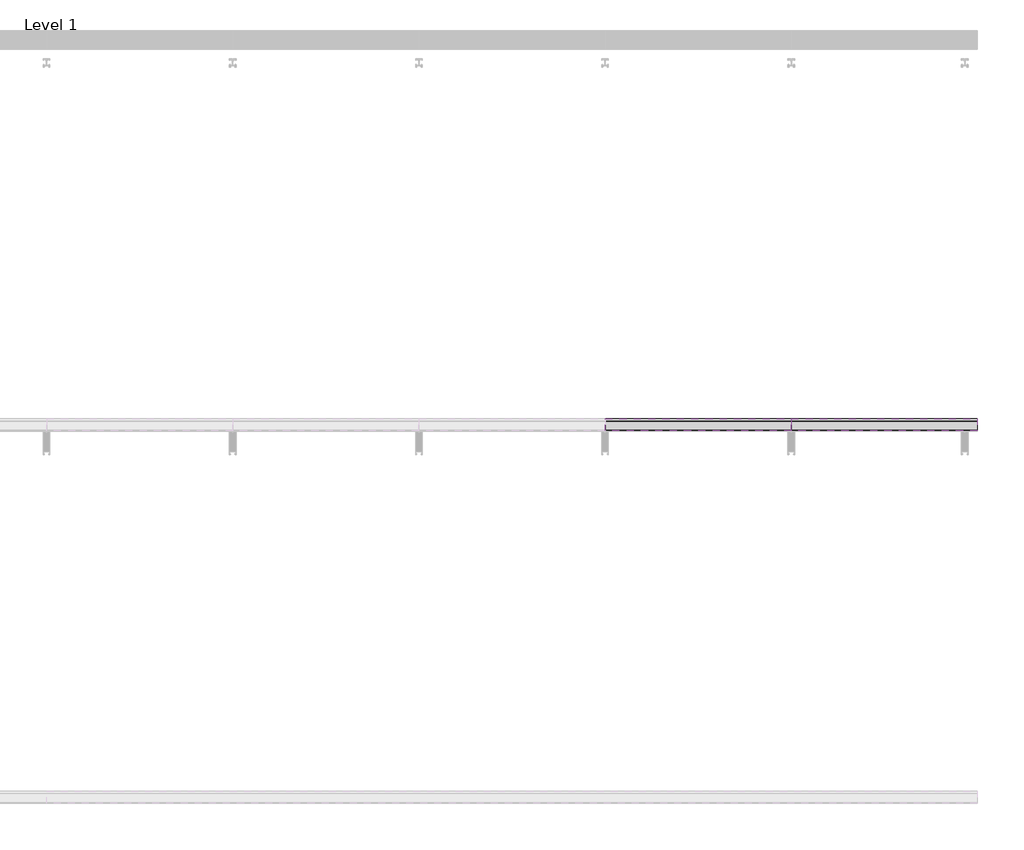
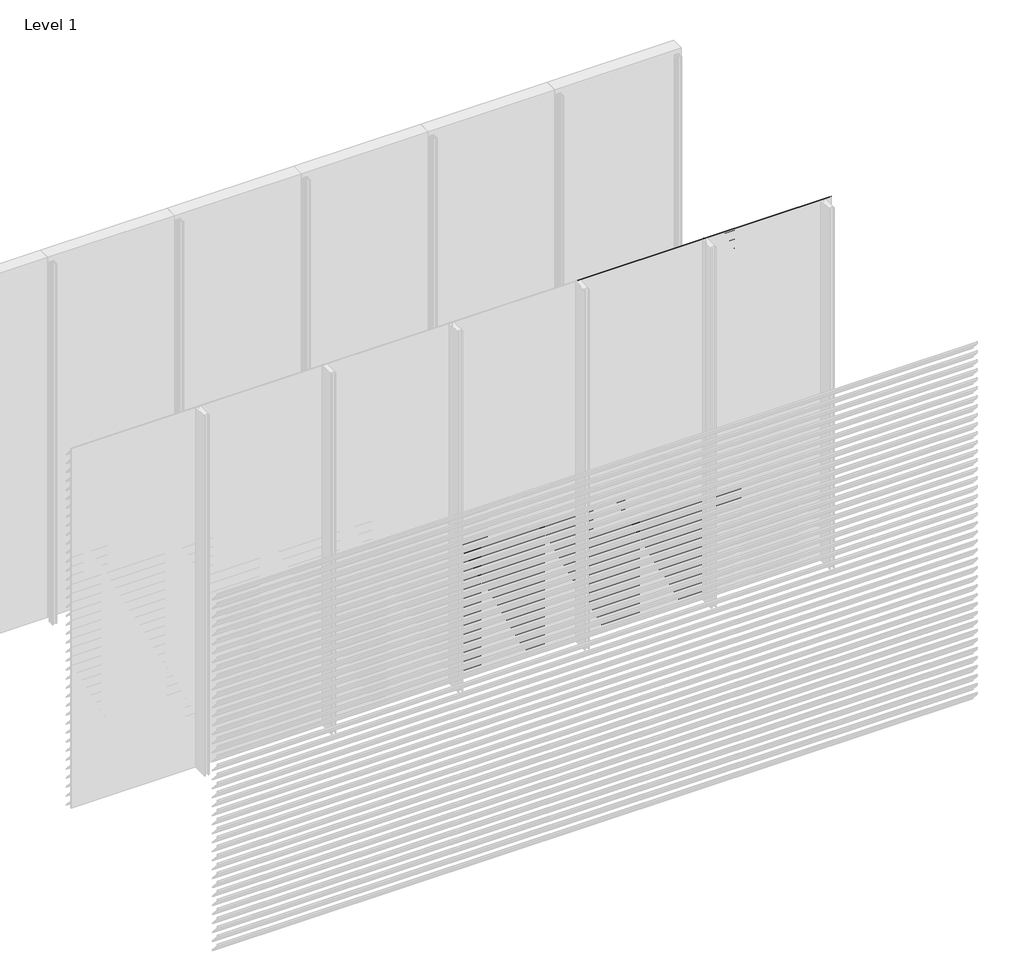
# One storey, part 9 of 35: 86 proxies.
"""IFC4 building model written with IfcOpenShell, lengths in millimetres."""

from ifc_helpers import new_model, si_unit, frame, origin, place, context, project, spatial, polyline, outline, extrude, element, save

model = new_model("IFC4")

# Units and contexts
model_context = context("Model", 3, world=origin())
ifc_project = project(units=[si_unit("LENGTHUNIT", "METRE", prefix="MILLI")], contexts=[model_context])

# Site, building, storey
site = spatial("IfcSite", under=ifc_project)
building = spatial("IfcBuilding", under=site)
storey = spatial("IfcBuildingStorey", under=building, Name="Level 1", Elevation=0.0)

# Proxies
placement = place(None, origin())
element("IfcBuildingElementProxy", 1, Name="Wall Sweeps", at=placement, inside=storey, context=model_context, shape_type="SweptSolid", body=[
    extrude(outline(polyline([(-47996.5, 1125.0), (-47996.5, 1110.5463701), (-47934.5, 1038.9330051), (-47934.5, 1035.4), (-47936.0, 1035.4), (-47936.0, 1038.3738975), (-47998.0, 1109.9872626), (-47998.0, 1125.0), (-47996.5, 1125.0)])), frame((3000.0, 0.0, 0.0), z_axis=(1.0, 0.0, 0.0), x_axis=(0.0, 1.0, 0.0)), (0.0, 0.0, 1.0), 1000.0),
])
element("IfcBuildingElementProxy", 2, Name="Wall Sweeps", at=placement, inside=storey, context=model_context, shape_type="SweptSolid", body=[
    extrude(outline(polyline([(-47996.5, 1050.0), (-47996.5, 1035.5463701), (-47934.5, 963.9330051), (-47934.5, 960.4), (-47936.0, 960.4), (-47936.0, 963.3738975), (-47998.0, 1034.9872626), (-47998.0, 1050.0), (-47996.5, 1050.0)])), frame((3000.0, 0.0, 0.0), z_axis=(1.0, 0.0, 0.0), x_axis=(0.0, 1.0, 0.0)), (0.0, 0.0, 1.0), 1000.0),
])
element("IfcBuildingElementProxy", 3, Name="Wall Sweeps", at=placement, inside=storey, context=model_context, shape_type="SweptSolid", body=[
    extrude(outline(polyline([(-47996.5, 975.0), (-47996.5, 960.5463701), (-47934.5, 888.9330051), (-47934.5, 885.4), (-47936.0, 885.4), (-47936.0, 888.3738975), (-47998.0, 959.9872626), (-47998.0, 975.0), (-47996.5, 975.0)])), frame((3000.0, 0.0, 0.0), z_axis=(1.0, 0.0, 0.0), x_axis=(0.0, 1.0, 0.0)), (0.0, 0.0, 1.0), 1000.0),
])
element("IfcBuildingElementProxy", 4, Name="Wall Sweeps", at=placement, inside=storey, context=model_context, shape_type="SweptSolid", body=[
    extrude(outline(polyline([(-47996.5, 900.0), (-47996.5, 885.5463701), (-47934.5, 813.9330051), (-47934.5, 810.4), (-47936.0, 810.4), (-47936.0, 813.3738975), (-47998.0, 884.9872626), (-47998.0, 900.0), (-47996.5, 900.0)])), frame((3000.0, 0.0, 0.0), z_axis=(1.0, 0.0, 0.0), x_axis=(0.0, 1.0, 0.0)), (0.0, 0.0, 1.0), 1000.0),
])
element("IfcBuildingElementProxy", 5, Name="Wall Sweeps", at=placement, inside=storey, context=model_context, shape_type="SweptSolid", body=[
    extrude(outline(polyline([(-47996.5, 825.0), (-47996.5, 810.5463701), (-47934.5, 738.9330051), (-47934.5, 735.4), (-47936.0, 735.4), (-47936.0, 738.3738975), (-47998.0, 809.9872626), (-47998.0, 825.0), (-47996.5, 825.0)])), frame((3000.0, 0.0, 0.0), z_axis=(1.0, 0.0, 0.0), x_axis=(0.0, 1.0, 0.0)), (0.0, 0.0, 1.0), 1000.0),
])
element("IfcBuildingElementProxy", 6, Name="Wall Sweeps", at=placement, inside=storey, context=model_context, shape_type="SweptSolid", body=[
    extrude(outline(polyline([(-47996.5, 750.0), (-47996.5, 735.5463701), (-47934.5, 663.9330051), (-47934.5, 660.4), (-47936.0, 660.4), (-47936.0, 663.3738975), (-47998.0, 734.9872626), (-47998.0, 750.0), (-47996.5, 750.0)])), frame((3000.0, 0.0, 0.0), z_axis=(1.0, 0.0, 0.0), x_axis=(0.0, 1.0, 0.0)), (0.0, 0.0, 1.0), 1000.0),
])
element("IfcBuildingElementProxy", 7, Name="Wall Sweeps", at=placement, inside=storey, context=model_context, shape_type="SweptSolid", body=[
    extrude(outline(polyline([(-47996.5, 675.0), (-47996.5, 660.5463701), (-47934.5, 588.9330051), (-47934.5, 585.4), (-47936.0, 585.4), (-47936.0, 588.3738975), (-47998.0, 659.9872626), (-47998.0, 675.0), (-47996.5, 675.0)])), frame((3000.0, 0.0, 0.0), z_axis=(1.0, 0.0, 0.0), x_axis=(0.0, 1.0, 0.0)), (0.0, 0.0, 1.0), 1000.0),
])
element("IfcBuildingElementProxy", 8, Name="Wall Sweeps", at=placement, inside=storey, context=model_context, shape_type="SweptSolid", body=[
    extrude(outline(polyline([(-47996.5, 600.0), (-47996.5, 585.5463701), (-47934.5, 513.9330051), (-47934.5, 510.4), (-47936.0, 510.4), (-47936.0, 513.3738975), (-47998.0, 584.9872626), (-47998.0, 600.0), (-47996.5, 600.0)])), frame((3000.0, 0.0, 0.0), z_axis=(1.0, 0.0, 0.0), x_axis=(0.0, 1.0, 0.0)), (0.0, 0.0, 1.0), 1000.0),
])
element("IfcBuildingElementProxy", 9, Name="Wall Sweeps", at=placement, inside=storey, context=model_context, shape_type="SweptSolid", body=[
    extrude(outline(polyline([(-47996.5, 525.0), (-47996.5, 510.5463701), (-47934.5, 438.9330051), (-47934.5, 435.4), (-47936.0, 435.4), (-47936.0, 438.3738975), (-47998.0, 509.9872626), (-47998.0, 525.0), (-47996.5, 525.0)])), frame((3000.0, 0.0, 0.0), z_axis=(1.0, 0.0, 0.0), x_axis=(0.0, 1.0, 0.0)), (0.0, 0.0, 1.0), 1000.0),
])
element("IfcBuildingElementProxy", 10, Name="Wall Sweeps", at=placement, inside=storey, context=model_context, shape_type="SweptSolid", body=[
    extrude(outline(polyline([(-47996.5, 450.0), (-47996.5, 435.5463701), (-47934.5, 363.9330051), (-47934.5, 360.4), (-47936.0, 360.4), (-47936.0, 363.3738975), (-47998.0, 434.9872626), (-47998.0, 450.0), (-47996.5, 450.0)])), frame((3000.0, 0.0, 0.0), z_axis=(1.0, 0.0, 0.0), x_axis=(0.0, 1.0, 0.0)), (0.0, 0.0, 1.0), 1000.0),
])
element("IfcBuildingElementProxy", 11, Name="Wall Sweeps", at=placement, inside=storey, context=model_context, shape_type="SweptSolid", body=[
    extrude(outline(polyline([(-47996.5, 375.0), (-47996.5, 360.5463701), (-47934.5, 288.9330051), (-47934.5, 285.4), (-47936.0, 285.4), (-47936.0, 288.3738975), (-47998.0, 359.9872626), (-47998.0, 375.0), (-47996.5, 375.0)])), frame((3000.0, 0.0, 0.0), z_axis=(1.0, 0.0, 0.0), x_axis=(0.0, 1.0, 0.0)), (0.0, 0.0, 1.0), 1000.0),
])
element("IfcBuildingElementProxy", 12, Name="Wall Sweeps", at=placement, inside=storey, context=model_context, shape_type="SweptSolid", body=[
    extrude(outline(polyline([(-47996.5, 300.0), (-47996.5, 285.5463701), (-47934.5, 213.9330051), (-47934.5, 210.4), (-47936.0, 210.4), (-47936.0, 213.3738975), (-47998.0, 284.9872626), (-47998.0, 300.0), (-47996.5, 300.0)])), frame((3000.0, 0.0, 0.0), z_axis=(1.0, 0.0, 0.0), x_axis=(0.0, 1.0, 0.0)), (0.0, 0.0, 1.0), 1000.0),
])
element("IfcBuildingElementProxy", 13, Name="Wall Sweeps", at=placement, inside=storey, context=model_context, shape_type="SweptSolid", body=[
    extrude(outline(polyline([(-47996.5, 225.0), (-47996.5, 210.5463701), (-47934.5, 138.9330051), (-47934.5, 135.4), (-47936.0, 135.4), (-47936.0, 138.3738975), (-47998.0, 209.9872626), (-47998.0, 225.0), (-47996.5, 225.0)])), frame((3000.0, 0.0, 0.0), z_axis=(1.0, 0.0, 0.0), x_axis=(0.0, 1.0, 0.0)), (0.0, 0.0, 1.0), 1000.0),
])
element("IfcBuildingElementProxy", 14, Name="Wall Sweeps", at=placement, inside=storey, context=model_context, shape_type="SweptSolid", body=[
    extrude(outline(polyline([(-47996.5, 150.0), (-47996.5, 135.5463701), (-47934.5, 63.9330051), (-47934.5, 60.4), (-47936.0, 60.4), (-47936.0, 63.3738975), (-47998.0, 134.9872626), (-47998.0, 150.0), (-47996.5, 150.0)])), frame((3000.0, 0.0, 0.0), z_axis=(1.0, 0.0, 0.0), x_axis=(0.0, 1.0, 0.0)), (0.0, 0.0, 1.0), 1000.0),
])
element("IfcBuildingElementProxy", 15, Name="Wall Sweeps", at=placement, inside=storey, context=model_context, shape_type="SweptSolid", body=[
    extrude(outline(polyline([(-47996.5, 75.0), (-47996.5, 60.5463701), (-47934.5, -11.0669949), (-47934.5, -14.6), (-47936.0, -14.6), (-47936.0, -11.6261025), (-47998.0, 59.9872626), (-47998.0, 75.0), (-47996.5, 75.0)])), frame((3000.0, 0.0, 0.0), z_axis=(1.0, 0.0, 0.0), x_axis=(0.0, 1.0, 0.0)), (0.0, 0.0, 1.0), 1000.0),
])
element("IfcBuildingElementProxy", 16, Name="Wall Sweeps", at=placement, inside=storey, context=model_context, shape_type="SweptSolid", body=[
    extrude(outline(polyline([(-47996.5, 3000.0), (-47996.5, 2985.5463701), (-47934.5, 2913.9330051), (-47934.5, 2910.4), (-47936.0, 2910.4), (-47936.0, 2913.3738975), (-47998.0, 2984.9872626), (-47998.0, 3000.0), (-47996.5, 3000.0)])), frame((4000.0, 0.0, 0.0), z_axis=(1.0, 0.0, 0.0), x_axis=(0.0, 1.0, 0.0)), (0.0, 0.0, 1.0), 1000.0),
])
element("IfcBuildingElementProxy", 17, Name="Wall Sweeps", at=placement, inside=storey, context=model_context, shape_type="SweptSolid", body=[
    extrude(outline(polyline([(-47996.5, 2925.0), (-47996.5, 2910.5463701), (-47934.5, 2838.9330051), (-47934.5, 2835.4), (-47936.0, 2835.4), (-47936.0, 2838.3738975), (-47998.0, 2909.9872626), (-47998.0, 2925.0), (-47996.5, 2925.0)])), frame((4000.0, 0.0, 0.0), z_axis=(1.0, 0.0, 0.0), x_axis=(0.0, 1.0, 0.0)), (0.0, 0.0, 1.0), 1000.0),
])
element("IfcBuildingElementProxy", 18, Name="Wall Sweeps", at=placement, inside=storey, context=model_context, shape_type="SweptSolid", body=[
    extrude(outline(polyline([(-47996.5, 2850.0), (-47996.5, 2835.5463701), (-47934.5, 2763.9330051), (-47934.5, 2760.4), (-47936.0, 2760.4), (-47936.0, 2763.3738975), (-47998.0, 2834.9872626), (-47998.0, 2850.0), (-47996.5, 2850.0)])), frame((4000.0, 0.0, 0.0), z_axis=(1.0, 0.0, 0.0), x_axis=(0.0, 1.0, 0.0)), (0.0, 0.0, 1.0), 1000.0),
])
element("IfcBuildingElementProxy", 19, Name="Wall Sweeps", at=placement, inside=storey, context=model_context, shape_type="SweptSolid", body=[
    extrude(outline(polyline([(-47996.5, 2775.0), (-47996.5, 2760.5463701), (-47934.5, 2688.9330051), (-47934.5, 2685.4), (-47936.0, 2685.4), (-47936.0, 2688.3738975), (-47998.0, 2759.9872626), (-47998.0, 2775.0), (-47996.5, 2775.0)])), frame((4000.0, 0.0, 0.0), z_axis=(1.0, 0.0, 0.0), x_axis=(0.0, 1.0, 0.0)), (0.0, 0.0, 1.0), 1000.0),
])
element("IfcBuildingElementProxy", 20, Name="Wall Sweeps", at=placement, inside=storey, context=model_context, shape_type="SweptSolid", body=[
    extrude(outline(polyline([(-47996.5, 2700.0), (-47996.5, 2685.5463701), (-47934.5, 2613.9330051), (-47934.5, 2610.4), (-47936.0, 2610.4), (-47936.0, 2613.3738975), (-47998.0, 2684.9872626), (-47998.0, 2700.0), (-47996.5, 2700.0)])), frame((4000.0, 0.0, 0.0), z_axis=(1.0, 0.0, 0.0), x_axis=(0.0, 1.0, 0.0)), (0.0, 0.0, 1.0), 1000.0),
])
element("IfcBuildingElementProxy", 21, Name="Wall Sweeps", at=placement, inside=storey, context=model_context, shape_type="SweptSolid", body=[
    extrude(outline(polyline([(-47996.5, 2625.0), (-47996.5, 2610.5463701), (-47934.5, 2538.9330051), (-47934.5, 2535.4), (-47936.0, 2535.4), (-47936.0, 2538.3738975), (-47998.0, 2609.9872626), (-47998.0, 2625.0), (-47996.5, 2625.0)])), frame((4000.0, 0.0, 0.0), z_axis=(1.0, 0.0, 0.0), x_axis=(0.0, 1.0, 0.0)), (0.0, 0.0, 1.0), 1000.0),
])
element("IfcBuildingElementProxy", 22, Name="Wall Sweeps", at=placement, inside=storey, context=model_context, shape_type="SweptSolid", body=[
    extrude(outline(polyline([(-47996.5, 2550.0), (-47996.5, 2535.5463701), (-47934.5, 2463.9330051), (-47934.5, 2460.4), (-47936.0, 2460.4), (-47936.0, 2463.3738975), (-47998.0, 2534.9872626), (-47998.0, 2550.0), (-47996.5, 2550.0)])), frame((4000.0, 0.0, 0.0), z_axis=(1.0, 0.0, 0.0), x_axis=(0.0, 1.0, 0.0)), (0.0, 0.0, 1.0), 1000.0),
])
element("IfcBuildingElementProxy", 23, Name="Wall Sweeps", at=placement, inside=storey, context=model_context, shape_type="SweptSolid", body=[
    extrude(outline(polyline([(-47996.5, 2475.0), (-47996.5, 2460.5463701), (-47934.5, 2388.9330051), (-47934.5, 2385.4), (-47936.0, 2385.4), (-47936.0, 2388.3738975), (-47998.0, 2459.9872626), (-47998.0, 2475.0), (-47996.5, 2475.0)])), frame((4000.0, 0.0, 0.0), z_axis=(1.0, 0.0, 0.0), x_axis=(0.0, 1.0, 0.0)), (0.0, 0.0, 1.0), 1000.0),
])
element("IfcBuildingElementProxy", 24, Name="Wall Sweeps", at=placement, inside=storey, context=model_context, shape_type="SweptSolid", body=[
    extrude(outline(polyline([(-47996.5, 2400.0), (-47996.5, 2385.5463701), (-47934.5, 2313.9330051), (-47934.5, 2310.4), (-47936.0, 2310.4), (-47936.0, 2313.3738975), (-47998.0, 2384.9872626), (-47998.0, 2400.0), (-47996.5, 2400.0)])), frame((4000.0, 0.0, 0.0), z_axis=(1.0, 0.0, 0.0), x_axis=(0.0, 1.0, 0.0)), (0.0, 0.0, 1.0), 1000.0),
])
element("IfcBuildingElementProxy", 25, Name="Wall Sweeps", at=placement, inside=storey, context=model_context, shape_type="SweptSolid", body=[
    extrude(outline(polyline([(-47996.5, 2325.0), (-47996.5, 2310.5463701), (-47934.5, 2238.9330051), (-47934.5, 2235.4), (-47936.0, 2235.4), (-47936.0, 2238.3738975), (-47998.0, 2309.9872626), (-47998.0, 2325.0), (-47996.5, 2325.0)])), frame((4000.0, 0.0, 0.0), z_axis=(1.0, 0.0, 0.0), x_axis=(0.0, 1.0, 0.0)), (0.0, 0.0, 1.0), 1000.0),
])
element("IfcBuildingElementProxy", 26, Name="Wall Sweeps", at=placement, inside=storey, context=model_context, shape_type="SweptSolid", body=[
    extrude(outline(polyline([(-47996.5, 2250.0), (-47996.5, 2235.5463701), (-47934.5, 2163.9330051), (-47934.5, 2160.4), (-47936.0, 2160.4), (-47936.0, 2163.3738975), (-47998.0, 2234.9872626), (-47998.0, 2250.0), (-47996.5, 2250.0)])), frame((4000.0, 0.0, 0.0), z_axis=(1.0, 0.0, 0.0), x_axis=(0.0, 1.0, 0.0)), (0.0, 0.0, 1.0), 1000.0),
])
element("IfcBuildingElementProxy", 27, Name="Wall Sweeps", at=placement, inside=storey, context=model_context, shape_type="SweptSolid", body=[
    extrude(outline(polyline([(-47996.5, 2175.0), (-47996.5, 2160.5463701), (-47934.5, 2088.9330051), (-47934.5, 2085.4), (-47936.0, 2085.4), (-47936.0, 2088.3738975), (-47998.0, 2159.9872626), (-47998.0, 2175.0), (-47996.5, 2175.0)])), frame((4000.0, 0.0, 0.0), z_axis=(1.0, 0.0, 0.0), x_axis=(0.0, 1.0, 0.0)), (0.0, 0.0, 1.0), 1000.0),
])
element("IfcBuildingElementProxy", 28, Name="Wall Sweeps", at=placement, inside=storey, context=model_context, shape_type="SweptSolid", body=[
    extrude(outline(polyline([(-47996.5, 2100.0), (-47996.5, 2085.5463701), (-47934.5, 2013.9330051), (-47934.5, 2010.4), (-47936.0, 2010.4), (-47936.0, 2013.3738975), (-47998.0, 2084.9872626), (-47998.0, 2100.0), (-47996.5, 2100.0)])), frame((4000.0, 0.0, 0.0), z_axis=(1.0, 0.0, 0.0), x_axis=(0.0, 1.0, 0.0)), (0.0, 0.0, 1.0), 1000.0),
])
element("IfcBuildingElementProxy", 29, Name="Wall Sweeps", at=placement, inside=storey, context=model_context, shape_type="SweptSolid", body=[
    extrude(outline(polyline([(-47996.5, 2025.0), (-47996.5, 2010.5463701), (-47934.5, 1938.9330051), (-47934.5, 1935.4), (-47936.0, 1935.4), (-47936.0, 1938.3738975), (-47998.0, 2009.9872626), (-47998.0, 2025.0), (-47996.5, 2025.0)])), frame((4000.0, 0.0, 0.0), z_axis=(1.0, 0.0, 0.0), x_axis=(0.0, 1.0, 0.0)), (0.0, 0.0, 1.0), 1000.0),
])
element("IfcBuildingElementProxy", 30, Name="Wall Sweeps", at=placement, inside=storey, context=model_context, shape_type="SweptSolid", body=[
    extrude(outline(polyline([(-47996.5, 1950.0), (-47996.5, 1935.5463701), (-47934.5, 1863.9330051), (-47934.5, 1860.4), (-47936.0, 1860.4), (-47936.0, 1863.3738975), (-47998.0, 1934.9872626), (-47998.0, 1950.0), (-47996.5, 1950.0)])), frame((4000.0, 0.0, 0.0), z_axis=(1.0, 0.0, 0.0), x_axis=(0.0, 1.0, 0.0)), (0.0, 0.0, 1.0), 1000.0),
])
element("IfcBuildingElementProxy", 31, Name="Wall Sweeps", at=placement, inside=storey, context=model_context, shape_type="SweptSolid", body=[
    extrude(outline(polyline([(-47996.5, 1875.0), (-47996.5, 1860.5463701), (-47934.5, 1788.9330051), (-47934.5, 1785.4), (-47936.0, 1785.4), (-47936.0, 1788.3738975), (-47998.0, 1859.9872626), (-47998.0, 1875.0), (-47996.5, 1875.0)])), frame((4000.0, 0.0, 0.0), z_axis=(1.0, 0.0, 0.0), x_axis=(0.0, 1.0, 0.0)), (0.0, 0.0, 1.0), 1000.0),
])
element("IfcBuildingElementProxy", 32, Name="Wall Sweeps", at=placement, inside=storey, context=model_context, shape_type="SweptSolid", body=[
    extrude(outline(polyline([(-47996.5, 1800.0), (-47996.5, 1785.5463701), (-47934.5, 1713.9330051), (-47934.5, 1710.4), (-47936.0, 1710.4), (-47936.0, 1713.3738975), (-47998.0, 1784.9872626), (-47998.0, 1800.0), (-47996.5, 1800.0)])), frame((4000.0, 0.0, 0.0), z_axis=(1.0, 0.0, 0.0), x_axis=(0.0, 1.0, 0.0)), (0.0, 0.0, 1.0), 1000.0),
])
element("IfcBuildingElementProxy", 33, Name="Wall Sweeps", at=placement, inside=storey, context=model_context, shape_type="SweptSolid", body=[
    extrude(outline(polyline([(-47996.5, 1725.0), (-47996.5, 1710.5463701), (-47934.5, 1638.9330051), (-47934.5, 1635.4), (-47936.0, 1635.4), (-47936.0, 1638.3738975), (-47998.0, 1709.9872626), (-47998.0, 1725.0), (-47996.5, 1725.0)])), frame((4000.0, 0.0, 0.0), z_axis=(1.0, 0.0, 0.0), x_axis=(0.0, 1.0, 0.0)), (0.0, 0.0, 1.0), 1000.0),
])
element("IfcBuildingElementProxy", 34, Name="Wall Sweeps", at=placement, inside=storey, context=model_context, shape_type="SweptSolid", body=[
    extrude(outline(polyline([(-47996.5, 1650.0), (-47996.5, 1635.5463701), (-47934.5, 1563.9330051), (-47934.5, 1560.4), (-47936.0, 1560.4), (-47936.0, 1563.3738975), (-47998.0, 1634.9872626), (-47998.0, 1650.0), (-47996.5, 1650.0)])), frame((4000.0, 0.0, 0.0), z_axis=(1.0, 0.0, 0.0), x_axis=(0.0, 1.0, 0.0)), (0.0, 0.0, 1.0), 1000.0),
])
element("IfcBuildingElementProxy", 35, Name="Wall Sweeps", at=placement, inside=storey, context=model_context, shape_type="SweptSolid", body=[
    extrude(outline(polyline([(-47996.5, 1575.0), (-47996.5, 1560.5463701), (-47934.5, 1488.9330051), (-47934.5, 1485.4), (-47936.0, 1485.4), (-47936.0, 1488.3738975), (-47998.0, 1559.9872626), (-47998.0, 1575.0), (-47996.5, 1575.0)])), frame((4000.0, 0.0, 0.0), z_axis=(1.0, 0.0, 0.0), x_axis=(0.0, 1.0, 0.0)), (0.0, 0.0, 1.0), 1000.0),
])
element("IfcBuildingElementProxy", 36, Name="Wall Sweeps", at=placement, inside=storey, context=model_context, shape_type="SweptSolid", body=[
    extrude(outline(polyline([(-47996.5, 1500.0), (-47996.5, 1485.5463701), (-47934.5, 1413.9330051), (-47934.5, 1410.4), (-47936.0, 1410.4), (-47936.0, 1413.3738975), (-47998.0, 1484.9872626), (-47998.0, 1500.0), (-47996.5, 1500.0)])), frame((4000.0, 0.0, 0.0), z_axis=(1.0, 0.0, 0.0), x_axis=(0.0, 1.0, 0.0)), (0.0, 0.0, 1.0), 1000.0),
])
element("IfcBuildingElementProxy", 37, Name="Wall Sweeps", at=placement, inside=storey, context=model_context, shape_type="SweptSolid", body=[
    extrude(outline(polyline([(-47996.5, 1425.0), (-47996.5, 1410.5463701), (-47934.5, 1338.9330051), (-47934.5, 1335.4), (-47936.0, 1335.4), (-47936.0, 1338.3738975), (-47998.0, 1409.9872626), (-47998.0, 1425.0), (-47996.5, 1425.0)])), frame((4000.0, 0.0, 0.0), z_axis=(1.0, 0.0, 0.0), x_axis=(0.0, 1.0, 0.0)), (0.0, 0.0, 1.0), 1000.0),
])
element("IfcBuildingElementProxy", 38, Name="Wall Sweeps", at=placement, inside=storey, context=model_context, shape_type="SweptSolid", body=[
    extrude(outline(polyline([(-47996.5, 1350.0), (-47996.5, 1335.5463701), (-47934.5, 1263.9330051), (-47934.5, 1260.4), (-47936.0, 1260.4), (-47936.0, 1263.3738975), (-47998.0, 1334.9872626), (-47998.0, 1350.0), (-47996.5, 1350.0)])), frame((4000.0, 0.0, 0.0), z_axis=(1.0, 0.0, 0.0), x_axis=(0.0, 1.0, 0.0)), (0.0, 0.0, 1.0), 1000.0),
])
element("IfcBuildingElementProxy", 39, Name="Wall Sweeps", at=placement, inside=storey, context=model_context, shape_type="SweptSolid", body=[
    extrude(outline(polyline([(-47996.5, 1275.0), (-47996.5, 1260.5463701), (-47934.5, 1188.9330051), (-47934.5, 1185.4), (-47936.0, 1185.4), (-47936.0, 1188.3738975), (-47998.0, 1259.9872626), (-47998.0, 1275.0), (-47996.5, 1275.0)])), frame((4000.0, 0.0, 0.0), z_axis=(1.0, 0.0, 0.0), x_axis=(0.0, 1.0, 0.0)), (0.0, 0.0, 1.0), 1000.0),
])
element("IfcBuildingElementProxy", 40, Name="Wall Sweeps", at=placement, inside=storey, context=model_context, shape_type="SweptSolid", body=[
    extrude(outline(polyline([(-47996.5, 1200.0), (-47996.5, 1185.5463701), (-47934.5, 1113.9330051), (-47934.5, 1110.4), (-47936.0, 1110.4), (-47936.0, 1113.3738975), (-47998.0, 1184.9872626), (-47998.0, 1200.0), (-47996.5, 1200.0)])), frame((4000.0, 0.0, 0.0), z_axis=(1.0, 0.0, 0.0), x_axis=(0.0, 1.0, 0.0)), (0.0, 0.0, 1.0), 1000.0),
])
element("IfcBuildingElementProxy", 41, Name="Wall Sweeps", at=placement, inside=storey, context=model_context, shape_type="SweptSolid", body=[
    extrude(outline(polyline([(-47996.5, 1125.0), (-47996.5, 1110.5463701), (-47934.5, 1038.9330051), (-47934.5, 1035.4), (-47936.0, 1035.4), (-47936.0, 1038.3738975), (-47998.0, 1109.9872626), (-47998.0, 1125.0), (-47996.5, 1125.0)])), frame((4000.0, 0.0, 0.0), z_axis=(1.0, 0.0, 0.0), x_axis=(0.0, 1.0, 0.0)), (0.0, 0.0, 1.0), 1000.0),
])
element("IfcBuildingElementProxy", 42, Name="Wall Sweeps", at=placement, inside=storey, context=model_context, shape_type="SweptSolid", body=[
    extrude(outline(polyline([(-47996.5, 1050.0), (-47996.5, 1035.5463701), (-47934.5, 963.9330051), (-47934.5, 960.4), (-47936.0, 960.4), (-47936.0, 963.3738975), (-47998.0, 1034.9872626), (-47998.0, 1050.0), (-47996.5, 1050.0)])), frame((4000.0, 0.0, 0.0), z_axis=(1.0, 0.0, 0.0), x_axis=(0.0, 1.0, 0.0)), (0.0, 0.0, 1.0), 1000.0),
])
element("IfcBuildingElementProxy", 43, Name="Wall Sweeps", at=placement, inside=storey, context=model_context, shape_type="SweptSolid", body=[
    extrude(outline(polyline([(-47996.5, 975.0), (-47996.5, 960.5463701), (-47934.5, 888.9330051), (-47934.5, 885.4), (-47936.0, 885.4), (-47936.0, 888.3738975), (-47998.0, 959.9872626), (-47998.0, 975.0), (-47996.5, 975.0)])), frame((4000.0, 0.0, 0.0), z_axis=(1.0, 0.0, 0.0), x_axis=(0.0, 1.0, 0.0)), (0.0, 0.0, 1.0), 1000.0),
])
element("IfcBuildingElementProxy", 44, Name="Wall Sweeps", at=placement, inside=storey, context=model_context, shape_type="SweptSolid", body=[
    extrude(outline(polyline([(-47996.5, 900.0), (-47996.5, 885.5463701), (-47934.5, 813.9330051), (-47934.5, 810.4), (-47936.0, 810.4), (-47936.0, 813.3738975), (-47998.0, 884.9872626), (-47998.0, 900.0), (-47996.5, 900.0)])), frame((4000.0, 0.0, 0.0), z_axis=(1.0, 0.0, 0.0), x_axis=(0.0, 1.0, 0.0)), (0.0, 0.0, 1.0), 1000.0),
])
element("IfcBuildingElementProxy", 45, Name="Wall Sweeps", at=placement, inside=storey, context=model_context, shape_type="SweptSolid", body=[
    extrude(outline(polyline([(-47996.5, 825.0), (-47996.5, 810.5463701), (-47934.5, 738.9330051), (-47934.5, 735.4), (-47936.0, 735.4), (-47936.0, 738.3738975), (-47998.0, 809.9872626), (-47998.0, 825.0), (-47996.5, 825.0)])), frame((4000.0, 0.0, 0.0), z_axis=(1.0, 0.0, 0.0), x_axis=(0.0, 1.0, 0.0)), (0.0, 0.0, 1.0), 1000.0),
])
element("IfcBuildingElementProxy", 46, Name="Wall Sweeps", at=placement, inside=storey, context=model_context, shape_type="SweptSolid", body=[
    extrude(outline(polyline([(-47996.5, 750.0), (-47996.5, 735.5463701), (-47934.5, 663.9330051), (-47934.5, 660.4), (-47936.0, 660.4), (-47936.0, 663.3738975), (-47998.0, 734.9872626), (-47998.0, 750.0), (-47996.5, 750.0)])), frame((4000.0, 0.0, 0.0), z_axis=(1.0, 0.0, 0.0), x_axis=(0.0, 1.0, 0.0)), (0.0, 0.0, 1.0), 1000.0),
])
element("IfcBuildingElementProxy", 47, Name="Wall Sweeps", at=placement, inside=storey, context=model_context, shape_type="SweptSolid", body=[
    extrude(outline(polyline([(-47996.5, 675.0), (-47996.5, 660.5463701), (-47934.5, 588.9330051), (-47934.5, 585.4), (-47936.0, 585.4), (-47936.0, 588.3738975), (-47998.0, 659.9872626), (-47998.0, 675.0), (-47996.5, 675.0)])), frame((4000.0, 0.0, 0.0), z_axis=(1.0, 0.0, 0.0), x_axis=(0.0, 1.0, 0.0)), (0.0, 0.0, 1.0), 1000.0),
])
element("IfcBuildingElementProxy", 48, Name="Wall Sweeps", at=placement, inside=storey, context=model_context, shape_type="SweptSolid", body=[
    extrude(outline(polyline([(-47996.5, 600.0), (-47996.5, 585.5463701), (-47934.5, 513.9330051), (-47934.5, 510.4), (-47936.0, 510.4), (-47936.0, 513.3738975), (-47998.0, 584.9872626), (-47998.0, 600.0), (-47996.5, 600.0)])), frame((4000.0, 0.0, 0.0), z_axis=(1.0, 0.0, 0.0), x_axis=(0.0, 1.0, 0.0)), (0.0, 0.0, 1.0), 1000.0),
])
element("IfcBuildingElementProxy", 49, Name="Wall Sweeps", at=placement, inside=storey, context=model_context, shape_type="SweptSolid", body=[
    extrude(outline(polyline([(-47996.5, 525.0), (-47996.5, 510.5463701), (-47934.5, 438.9330051), (-47934.5, 435.4), (-47936.0, 435.4), (-47936.0, 438.3738975), (-47998.0, 509.9872626), (-47998.0, 525.0), (-47996.5, 525.0)])), frame((4000.0, 0.0, 0.0), z_axis=(1.0, 0.0, 0.0), x_axis=(0.0, 1.0, 0.0)), (0.0, 0.0, 1.0), 1000.0),
])
element("IfcBuildingElementProxy", 50, Name="Wall Sweeps", at=placement, inside=storey, context=model_context, shape_type="SweptSolid", body=[
    extrude(outline(polyline([(-47996.5, 450.0), (-47996.5, 435.5463701), (-47934.5, 363.9330051), (-47934.5, 360.4), (-47936.0, 360.4), (-47936.0, 363.3738975), (-47998.0, 434.9872626), (-47998.0, 450.0), (-47996.5, 450.0)])), frame((4000.0, 0.0, 0.0), z_axis=(1.0, 0.0, 0.0), x_axis=(0.0, 1.0, 0.0)), (0.0, 0.0, 1.0), 1000.0),
])
element("IfcBuildingElementProxy", 51, Name="Wall Sweeps", at=placement, inside=storey, context=model_context, shape_type="SweptSolid", body=[
    extrude(outline(polyline([(-47996.5, 375.0), (-47996.5, 360.5463701), (-47934.5, 288.9330051), (-47934.5, 285.4), (-47936.0, 285.4), (-47936.0, 288.3738975), (-47998.0, 359.9872626), (-47998.0, 375.0), (-47996.5, 375.0)])), frame((4000.0, 0.0, 0.0), z_axis=(1.0, 0.0, 0.0), x_axis=(0.0, 1.0, 0.0)), (0.0, 0.0, 1.0), 1000.0),
])
element("IfcBuildingElementProxy", 52, Name="Wall Sweeps", at=placement, inside=storey, context=model_context, shape_type="SweptSolid", body=[
    extrude(outline(polyline([(-47996.5, 300.0), (-47996.5, 285.5463701), (-47934.5, 213.9330051), (-47934.5, 210.4), (-47936.0, 210.4), (-47936.0, 213.3738975), (-47998.0, 284.9872626), (-47998.0, 300.0), (-47996.5, 300.0)])), frame((4000.0, 0.0, 0.0), z_axis=(1.0, 0.0, 0.0), x_axis=(0.0, 1.0, 0.0)), (0.0, 0.0, 1.0), 1000.0),
])
element("IfcBuildingElementProxy", 53, Name="Wall Sweeps", at=placement, inside=storey, context=model_context, shape_type="SweptSolid", body=[
    extrude(outline(polyline([(-47996.5, 225.0), (-47996.5, 210.5463701), (-47934.5, 138.9330051), (-47934.5, 135.4), (-47936.0, 135.4), (-47936.0, 138.3738975), (-47998.0, 209.9872626), (-47998.0, 225.0), (-47996.5, 225.0)])), frame((4000.0, 0.0, 0.0), z_axis=(1.0, 0.0, 0.0), x_axis=(0.0, 1.0, 0.0)), (0.0, 0.0, 1.0), 1000.0),
])
element("IfcBuildingElementProxy", 54, Name="Wall Sweeps", at=placement, inside=storey, context=model_context, shape_type="SweptSolid", body=[
    extrude(outline(polyline([(-47996.5, 150.0), (-47996.5, 135.5463701), (-47934.5, 63.9330051), (-47934.5, 60.4), (-47936.0, 60.4), (-47936.0, 63.3738975), (-47998.0, 134.9872626), (-47998.0, 150.0), (-47996.5, 150.0)])), frame((4000.0, 0.0, 0.0), z_axis=(1.0, 0.0, 0.0), x_axis=(0.0, 1.0, 0.0)), (0.0, 0.0, 1.0), 1000.0),
])
element("IfcBuildingElementProxy", 55, Name="Wall Sweeps", at=placement, inside=storey, context=model_context, shape_type="SweptSolid", body=[
    extrude(outline(polyline([(-47996.5, 75.0), (-47996.5, 60.5463701), (-47934.5, -11.0669949), (-47934.5, -14.6), (-47936.0, -14.6), (-47936.0, -11.6261025), (-47998.0, 59.9872626), (-47998.0, 75.0), (-47996.5, 75.0)])), frame((4000.0, 0.0, 0.0), z_axis=(1.0, 0.0, 0.0), x_axis=(0.0, 1.0, 0.0)), (0.0, 0.0, 1.0), 1000.0),
])
element("IfcBuildingElementProxy", 56, Name="Wall Sweeps", at=placement, inside=storey, context=model_context, shape_type="SweptSolid", body=[
    extrude(outline(polyline([(-47996.5, 3000.0), (-47996.5, 2985.5463701), (-47934.5, 2913.9330051), (-47934.5, 2910.4), (-47936.0, 2910.4), (-47936.0, 2913.3738975), (-47998.0, 2984.9872626), (-47998.0, 3000.0), (-47996.5, 3000.0)])), frame((5000.0, 0.0, 0.0), z_axis=(1.0, 0.0, 0.0), x_axis=(0.0, 1.0, 0.0)), (0.0, 0.0, 1.0), 1000.0),
])
element("IfcBuildingElementProxy", 57, Name="Wall Sweeps", at=placement, inside=storey, context=model_context, shape_type="SweptSolid", body=[
    extrude(outline(polyline([(-47996.5, 2925.0), (-47996.5, 2910.5463701), (-47934.5, 2838.9330051), (-47934.5, 2835.4), (-47936.0, 2835.4), (-47936.0, 2838.3738975), (-47998.0, 2909.9872626), (-47998.0, 2925.0), (-47996.5, 2925.0)])), frame((5000.0, 0.0, 0.0), z_axis=(1.0, 0.0, 0.0), x_axis=(0.0, 1.0, 0.0)), (0.0, 0.0, 1.0), 1000.0),
])
element("IfcBuildingElementProxy", 58, Name="Wall Sweeps", at=placement, inside=storey, context=model_context, shape_type="SweptSolid", body=[
    extrude(outline(polyline([(-47996.5, 2850.0), (-47996.5, 2835.5463701), (-47934.5, 2763.9330051), (-47934.5, 2760.4), (-47936.0, 2760.4), (-47936.0, 2763.3738975), (-47998.0, 2834.9872626), (-47998.0, 2850.0), (-47996.5, 2850.0)])), frame((5000.0, 0.0, 0.0), z_axis=(1.0, 0.0, 0.0), x_axis=(0.0, 1.0, 0.0)), (0.0, 0.0, 1.0), 1000.0),
])
element("IfcBuildingElementProxy", 59, Name="Wall Sweeps", at=placement, inside=storey, context=model_context, shape_type="SweptSolid", body=[
    extrude(outline(polyline([(-47996.5, 2775.0), (-47996.5, 2760.5463701), (-47934.5, 2688.9330051), (-47934.5, 2685.4), (-47936.0, 2685.4), (-47936.0, 2688.3738975), (-47998.0, 2759.9872626), (-47998.0, 2775.0), (-47996.5, 2775.0)])), frame((5000.0, 0.0, 0.0), z_axis=(1.0, 0.0, 0.0), x_axis=(0.0, 1.0, 0.0)), (0.0, 0.0, 1.0), 1000.0),
])
element("IfcBuildingElementProxy", 60, Name="Wall Sweeps", at=placement, inside=storey, context=model_context, shape_type="SweptSolid", body=[
    extrude(outline(polyline([(-47996.5, 2700.0), (-47996.5, 2685.5463701), (-47934.5, 2613.9330051), (-47934.5, 2610.4), (-47936.0, 2610.4), (-47936.0, 2613.3738975), (-47998.0, 2684.9872626), (-47998.0, 2700.0), (-47996.5, 2700.0)])), frame((5000.0, 0.0, 0.0), z_axis=(1.0, 0.0, 0.0), x_axis=(0.0, 1.0, 0.0)), (0.0, 0.0, 1.0), 1000.0),
])
element("IfcBuildingElementProxy", 61, Name="Wall Sweeps", at=placement, inside=storey, context=model_context, shape_type="SweptSolid", body=[
    extrude(outline(polyline([(-47996.5, 2625.0), (-47996.5, 2610.5463701), (-47934.5, 2538.9330051), (-47934.5, 2535.4), (-47936.0, 2535.4), (-47936.0, 2538.3738975), (-47998.0, 2609.9872626), (-47998.0, 2625.0), (-47996.5, 2625.0)])), frame((5000.0, 0.0, 0.0), z_axis=(1.0, 0.0, 0.0), x_axis=(0.0, 1.0, 0.0)), (0.0, 0.0, 1.0), 1000.0),
])
element("IfcBuildingElementProxy", 62, Name="Wall Sweeps", at=placement, inside=storey, context=model_context, shape_type="SweptSolid", body=[
    extrude(outline(polyline([(-47996.5, 2550.0), (-47996.5, 2535.5463701), (-47934.5, 2463.9330051), (-47934.5, 2460.4), (-47936.0, 2460.4), (-47936.0, 2463.3738975), (-47998.0, 2534.9872626), (-47998.0, 2550.0), (-47996.5, 2550.0)])), frame((5000.0, 0.0, 0.0), z_axis=(1.0, 0.0, 0.0), x_axis=(0.0, 1.0, 0.0)), (0.0, 0.0, 1.0), 1000.0),
])
element("IfcBuildingElementProxy", 63, Name="Wall Sweeps", at=placement, inside=storey, context=model_context, shape_type="SweptSolid", body=[
    extrude(outline(polyline([(-47996.5, 2475.0), (-47996.5, 2460.5463701), (-47934.5, 2388.9330051), (-47934.5, 2385.4), (-47936.0, 2385.4), (-47936.0, 2388.3738975), (-47998.0, 2459.9872626), (-47998.0, 2475.0), (-47996.5, 2475.0)])), frame((5000.0, 0.0, 0.0), z_axis=(1.0, 0.0, 0.0), x_axis=(0.0, 1.0, 0.0)), (0.0, 0.0, 1.0), 1000.0),
])
element("IfcBuildingElementProxy", 64, Name="Wall Sweeps", at=placement, inside=storey, context=model_context, shape_type="SweptSolid", body=[
    extrude(outline(polyline([(-47996.5, 2400.0), (-47996.5, 2385.5463701), (-47934.5, 2313.9330051), (-47934.5, 2310.4), (-47936.0, 2310.4), (-47936.0, 2313.3738975), (-47998.0, 2384.9872626), (-47998.0, 2400.0), (-47996.5, 2400.0)])), frame((5000.0, 0.0, 0.0), z_axis=(1.0, 0.0, 0.0), x_axis=(0.0, 1.0, 0.0)), (0.0, 0.0, 1.0), 1000.0),
])
element("IfcBuildingElementProxy", 65, Name="Wall Sweeps", at=placement, inside=storey, context=model_context, shape_type="SweptSolid", body=[
    extrude(outline(polyline([(-47996.5, 2325.0), (-47996.5, 2310.5463701), (-47934.5, 2238.9330051), (-47934.5, 2235.4), (-47936.0, 2235.4), (-47936.0, 2238.3738975), (-47998.0, 2309.9872626), (-47998.0, 2325.0), (-47996.5, 2325.0)])), frame((5000.0, 0.0, 0.0), z_axis=(1.0, 0.0, 0.0), x_axis=(0.0, 1.0, 0.0)), (0.0, 0.0, 1.0), 1000.0),
])
element("IfcBuildingElementProxy", 66, Name="Wall Sweeps", at=placement, inside=storey, context=model_context, shape_type="SweptSolid", body=[
    extrude(outline(polyline([(-47996.5, 2250.0), (-47996.5, 2235.5463701), (-47934.5, 2163.9330051), (-47934.5, 2160.4), (-47936.0, 2160.4), (-47936.0, 2163.3738975), (-47998.0, 2234.9872626), (-47998.0, 2250.0), (-47996.5, 2250.0)])), frame((5000.0, 0.0, 0.0), z_axis=(1.0, 0.0, 0.0), x_axis=(0.0, 1.0, 0.0)), (0.0, 0.0, 1.0), 1000.0),
])
element("IfcBuildingElementProxy", 67, Name="Wall Sweeps", at=placement, inside=storey, context=model_context, shape_type="SweptSolid", body=[
    extrude(outline(polyline([(-47996.5, 2175.0), (-47996.5, 2160.5463701), (-47934.5, 2088.9330051), (-47934.5, 2085.4), (-47936.0, 2085.4), (-47936.0, 2088.3738975), (-47998.0, 2159.9872626), (-47998.0, 2175.0), (-47996.5, 2175.0)])), frame((5000.0, 0.0, 0.0), z_axis=(1.0, 0.0, 0.0), x_axis=(0.0, 1.0, 0.0)), (0.0, 0.0, 1.0), 1000.0),
])
element("IfcBuildingElementProxy", 68, Name="Wall Sweeps", at=placement, inside=storey, context=model_context, shape_type="SweptSolid", body=[
    extrude(outline(polyline([(-47996.5, 2100.0), (-47996.5, 2085.5463701), (-47934.5, 2013.9330051), (-47934.5, 2010.4), (-47936.0, 2010.4), (-47936.0, 2013.3738975), (-47998.0, 2084.9872626), (-47998.0, 2100.0), (-47996.5, 2100.0)])), frame((5000.0, 0.0, 0.0), z_axis=(1.0, 0.0, 0.0), x_axis=(0.0, 1.0, 0.0)), (0.0, 0.0, 1.0), 1000.0),
])
element("IfcBuildingElementProxy", 69, Name="Wall Sweeps", at=placement, inside=storey, context=model_context, shape_type="SweptSolid", body=[
    extrude(outline(polyline([(-47996.5, 2025.0), (-47996.5, 2010.5463701), (-47934.5, 1938.9330051), (-47934.5, 1935.4), (-47936.0, 1935.4), (-47936.0, 1938.3738975), (-47998.0, 2009.9872626), (-47998.0, 2025.0), (-47996.5, 2025.0)])), frame((5000.0, 0.0, 0.0), z_axis=(1.0, 0.0, 0.0), x_axis=(0.0, 1.0, 0.0)), (0.0, 0.0, 1.0), 1000.0),
])
element("IfcBuildingElementProxy", 70, Name="Wall Sweeps", at=placement, inside=storey, context=model_context, shape_type="SweptSolid", body=[
    extrude(outline(polyline([(-47996.5, 1950.0), (-47996.5, 1935.5463701), (-47934.5, 1863.9330051), (-47934.5, 1860.4), (-47936.0, 1860.4), (-47936.0, 1863.3738975), (-47998.0, 1934.9872626), (-47998.0, 1950.0), (-47996.5, 1950.0)])), frame((5000.0, 0.0, 0.0), z_axis=(1.0, 0.0, 0.0), x_axis=(0.0, 1.0, 0.0)), (0.0, 0.0, 1.0), 1000.0),
])
element("IfcBuildingElementProxy", 71, Name="Wall Sweeps", at=placement, inside=storey, context=model_context, shape_type="SweptSolid", body=[
    extrude(outline(polyline([(-47996.5, 1875.0), (-47996.5, 1860.5463701), (-47934.5, 1788.9330051), (-47934.5, 1785.4), (-47936.0, 1785.4), (-47936.0, 1788.3738975), (-47998.0, 1859.9872626), (-47998.0, 1875.0), (-47996.5, 1875.0)])), frame((5000.0, 0.0, 0.0), z_axis=(1.0, 0.0, 0.0), x_axis=(0.0, 1.0, 0.0)), (0.0, 0.0, 1.0), 1000.0),
])
element("IfcBuildingElementProxy", 72, Name="Wall Sweeps", at=placement, inside=storey, context=model_context, shape_type="SweptSolid", body=[
    extrude(outline(polyline([(-47996.5, 1800.0), (-47996.5, 1785.5463701), (-47934.5, 1713.9330051), (-47934.5, 1710.4), (-47936.0, 1710.4), (-47936.0, 1713.3738975), (-47998.0, 1784.9872626), (-47998.0, 1800.0), (-47996.5, 1800.0)])), frame((5000.0, 0.0, 0.0), z_axis=(1.0, 0.0, 0.0), x_axis=(0.0, 1.0, 0.0)), (0.0, 0.0, 1.0), 1000.0),
])
element("IfcBuildingElementProxy", 73, Name="Wall Sweeps", at=placement, inside=storey, context=model_context, shape_type="SweptSolid", body=[
    extrude(outline(polyline([(-47996.5, 1725.0), (-47996.5, 1710.5463701), (-47934.5, 1638.9330051), (-47934.5, 1635.4), (-47936.0, 1635.4), (-47936.0, 1638.3738975), (-47998.0, 1709.9872626), (-47998.0, 1725.0), (-47996.5, 1725.0)])), frame((5000.0, 0.0, 0.0), z_axis=(1.0, 0.0, 0.0), x_axis=(0.0, 1.0, 0.0)), (0.0, 0.0, 1.0), 1000.0),
])
element("IfcBuildingElementProxy", 74, Name="Wall Sweeps", at=placement, inside=storey, context=model_context, shape_type="SweptSolid", body=[
    extrude(outline(polyline([(-47996.5, 1650.0), (-47996.5, 1635.5463701), (-47934.5, 1563.9330051), (-47934.5, 1560.4), (-47936.0, 1560.4), (-47936.0, 1563.3738975), (-47998.0, 1634.9872626), (-47998.0, 1650.0), (-47996.5, 1650.0)])), frame((5000.0, 0.0, 0.0), z_axis=(1.0, 0.0, 0.0), x_axis=(0.0, 1.0, 0.0)), (0.0, 0.0, 1.0), 1000.0),
])
element("IfcBuildingElementProxy", 75, Name="Wall Sweeps", at=placement, inside=storey, context=model_context, shape_type="SweptSolid", body=[
    extrude(outline(polyline([(-47996.5, 1575.0), (-47996.5, 1560.5463701), (-47934.5, 1488.9330051), (-47934.5, 1485.4), (-47936.0, 1485.4), (-47936.0, 1488.3738975), (-47998.0, 1559.9872626), (-47998.0, 1575.0), (-47996.5, 1575.0)])), frame((5000.0, 0.0, 0.0), z_axis=(1.0, 0.0, 0.0), x_axis=(0.0, 1.0, 0.0)), (0.0, 0.0, 1.0), 1000.0),
])
element("IfcBuildingElementProxy", 76, Name="Wall Sweeps", at=placement, inside=storey, context=model_context, shape_type="SweptSolid", body=[
    extrude(outline(polyline([(-47996.5, 1500.0), (-47996.5, 1485.5463701), (-47934.5, 1413.9330051), (-47934.5, 1410.4), (-47936.0, 1410.4), (-47936.0, 1413.3738975), (-47998.0, 1484.9872626), (-47998.0, 1500.0), (-47996.5, 1500.0)])), frame((5000.0, 0.0, 0.0), z_axis=(1.0, 0.0, 0.0), x_axis=(0.0, 1.0, 0.0)), (0.0, 0.0, 1.0), 1000.0),
])
element("IfcBuildingElementProxy", 77, Name="Wall Sweeps", at=placement, inside=storey, context=model_context, shape_type="SweptSolid", body=[
    extrude(outline(polyline([(-47996.5, 1425.0), (-47996.5, 1410.5463701), (-47934.5, 1338.9330051), (-47934.5, 1335.4), (-47936.0, 1335.4), (-47936.0, 1338.3738975), (-47998.0, 1409.9872626), (-47998.0, 1425.0), (-47996.5, 1425.0)])), frame((5000.0, 0.0, 0.0), z_axis=(1.0, 0.0, 0.0), x_axis=(0.0, 1.0, 0.0)), (0.0, 0.0, 1.0), 1000.0),
])
element("IfcBuildingElementProxy", 78, Name="Wall Sweeps", at=placement, inside=storey, context=model_context, shape_type="SweptSolid", body=[
    extrude(outline(polyline([(-47996.5, 1350.0), (-47996.5, 1335.5463701), (-47934.5, 1263.9330051), (-47934.5, 1260.4), (-47936.0, 1260.4), (-47936.0, 1263.3738975), (-47998.0, 1334.9872626), (-47998.0, 1350.0), (-47996.5, 1350.0)])), frame((5000.0, 0.0, 0.0), z_axis=(1.0, 0.0, 0.0), x_axis=(0.0, 1.0, 0.0)), (0.0, 0.0, 1.0), 1000.0),
])
element("IfcBuildingElementProxy", 79, Name="Wall Sweeps", at=placement, inside=storey, context=model_context, shape_type="SweptSolid", body=[
    extrude(outline(polyline([(-47996.5, 1275.0), (-47996.5, 1260.5463701), (-47934.5, 1188.9330051), (-47934.5, 1185.4), (-47936.0, 1185.4), (-47936.0, 1188.3738975), (-47998.0, 1259.9872626), (-47998.0, 1275.0), (-47996.5, 1275.0)])), frame((5000.0, 0.0, 0.0), z_axis=(1.0, 0.0, 0.0), x_axis=(0.0, 1.0, 0.0)), (0.0, 0.0, 1.0), 1000.0),
])
element("IfcBuildingElementProxy", 80, Name="Wall Sweeps", at=placement, inside=storey, context=model_context, shape_type="SweptSolid", body=[
    extrude(outline(polyline([(-47996.5, 1200.0), (-47996.5, 1185.5463701), (-47934.5, 1113.9330051), (-47934.5, 1110.4), (-47936.0, 1110.4), (-47936.0, 1113.3738975), (-47998.0, 1184.9872626), (-47998.0, 1200.0), (-47996.5, 1200.0)])), frame((5000.0, 0.0, 0.0), z_axis=(1.0, 0.0, 0.0), x_axis=(0.0, 1.0, 0.0)), (0.0, 0.0, 1.0), 1000.0),
])
element("IfcBuildingElementProxy", 81, Name="Wall Sweeps", at=placement, inside=storey, context=model_context, shape_type="SweptSolid", body=[
    extrude(outline(polyline([(-47996.5, 1125.0), (-47996.5, 1110.5463701), (-47934.5, 1038.9330051), (-47934.5, 1035.4), (-47936.0, 1035.4), (-47936.0, 1038.3738975), (-47998.0, 1109.9872626), (-47998.0, 1125.0), (-47996.5, 1125.0)])), frame((5000.0, 0.0, 0.0), z_axis=(1.0, 0.0, 0.0), x_axis=(0.0, 1.0, 0.0)), (0.0, 0.0, 1.0), 1000.0),
])
element("IfcBuildingElementProxy", 82, Name="Wall Sweeps", at=placement, inside=storey, context=model_context, shape_type="SweptSolid", body=[
    extrude(outline(polyline([(-47996.5, 1050.0), (-47996.5, 1035.5463701), (-47934.5, 963.9330051), (-47934.5, 960.4), (-47936.0, 960.4), (-47936.0, 963.3738975), (-47998.0, 1034.9872626), (-47998.0, 1050.0), (-47996.5, 1050.0)])), frame((5000.0, 0.0, 0.0), z_axis=(1.0, 0.0, 0.0), x_axis=(0.0, 1.0, 0.0)), (0.0, 0.0, 1.0), 1000.0),
])
element("IfcBuildingElementProxy", 83, Name="Wall Sweeps", at=placement, inside=storey, context=model_context, shape_type="SweptSolid", body=[
    extrude(outline(polyline([(-47996.5, 975.0), (-47996.5, 960.5463701), (-47934.5, 888.9330051), (-47934.5, 885.4), (-47936.0, 885.4), (-47936.0, 888.3738975), (-47998.0, 959.9872626), (-47998.0, 975.0), (-47996.5, 975.0)])), frame((5000.0, 0.0, 0.0), z_axis=(1.0, 0.0, 0.0), x_axis=(0.0, 1.0, 0.0)), (0.0, 0.0, 1.0), 1000.0),
])
element("IfcBuildingElementProxy", 84, Name="Wall Sweeps", at=placement, inside=storey, context=model_context, shape_type="SweptSolid", body=[
    extrude(outline(polyline([(-47996.5, 900.0), (-47996.5, 885.5463701), (-47934.5, 813.9330051), (-47934.5, 810.4), (-47936.0, 810.4), (-47936.0, 813.3738975), (-47998.0, 884.9872626), (-47998.0, 900.0), (-47996.5, 900.0)])), frame((5000.0, 0.0, 0.0), z_axis=(1.0, 0.0, 0.0), x_axis=(0.0, 1.0, 0.0)), (0.0, 0.0, 1.0), 1000.0),
])
element("IfcBuildingElementProxy", 85, Name="Wall Sweeps", at=placement, inside=storey, context=model_context, shape_type="SweptSolid", body=[
    extrude(outline(polyline([(-47996.5, 825.0), (-47996.5, 810.5463701), (-47934.5, 738.9330051), (-47934.5, 735.4), (-47936.0, 735.4), (-47936.0, 738.3738975), (-47998.0, 809.9872626), (-47998.0, 825.0), (-47996.5, 825.0)])), frame((5000.0, 0.0, 0.0), z_axis=(1.0, 0.0, 0.0), x_axis=(0.0, 1.0, 0.0)), (0.0, 0.0, 1.0), 1000.0),
])
element("IfcBuildingElementProxy", 86, Name="Wall Sweeps", at=placement, inside=storey, context=model_context, shape_type="SweptSolid", body=[
    extrude(outline(polyline([(-47996.5, 750.0), (-47996.5, 735.5463701), (-47934.5, 663.9330051), (-47934.5, 660.4), (-47936.0, 660.4), (-47936.0, 663.3738975), (-47998.0, 734.9872626), (-47998.0, 750.0), (-47996.5, 750.0)])), frame((5000.0, 0.0, 0.0), z_axis=(1.0, 0.0, 0.0), x_axis=(0.0, 1.0, 0.0)), (0.0, 0.0, 1.0), 1000.0),
])

save(model, "model.ifc")
